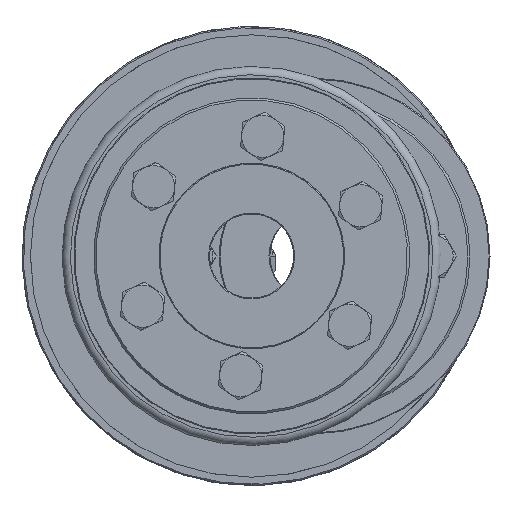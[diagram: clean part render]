
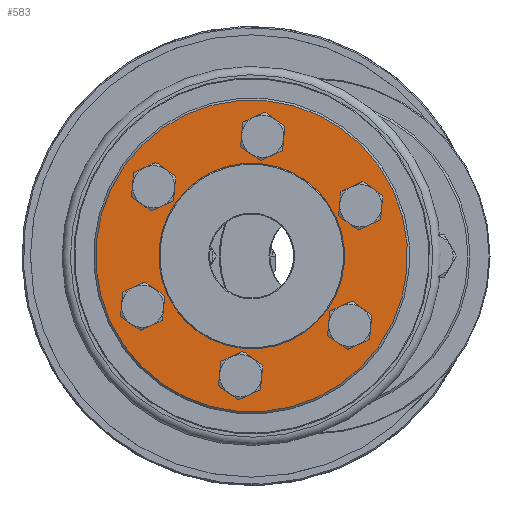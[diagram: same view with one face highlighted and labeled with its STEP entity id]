
A CAD part, left-side view. The second image highlights one B-rep face of the part: STEP entity #583.
In plain terms, the highlighted planar face has unit normal (-1, 0, 0).
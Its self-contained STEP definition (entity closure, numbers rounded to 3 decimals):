
#583 = ADVANCED_FACE( 'NONE', ( #1037, #1038, #1039, #1040, #1041, #1042, #1043, #1044 ), #1045, .F. );
#1037 = FACE_OUTER_BOUND( '', #1770, .T. );
#1038 = FACE_BOUND( '', #1771, .T. );
#1039 = FACE_BOUND( '', #1772, .T. );
#1040 = FACE_BOUND( '', #1773, .T. );
#1041 = FACE_BOUND( '', #1774, .T. );
#1042 = FACE_BOUND( '', #1775, .T. );
#1043 = FACE_BOUND( '', #1776, .T. );
#1044 = FACE_BOUND( '', #1777, .T. );
#1045 = PLANE( '', #1778 );
#1770 = EDGE_LOOP( '', ( #2645 ) );
#1771 = EDGE_LOOP( '', ( #2646 ) );
#1772 = EDGE_LOOP( '', ( #2647 ) );
#1773 = EDGE_LOOP( '', ( #2648 ) );
#1774 = EDGE_LOOP( '', ( #2649 ) );
#1775 = EDGE_LOOP( '', ( #2650 ) );
#1776 = EDGE_LOOP( '', ( #2651 ) );
#1777 = EDGE_LOOP( '', ( #2652 ) );
#1778 = AXIS2_PLACEMENT_3D( '', #2653, #2654, #2655 );
#2645 = ORIENTED_EDGE( '', *, *, #3880, .T. );
#2646 = ORIENTED_EDGE( '', *, *, #3881, .T. );
#2647 = ORIENTED_EDGE( '', *, *, #3882, .T. );
#2648 = ORIENTED_EDGE( '', *, *, #3883, .T. );
#2649 = ORIENTED_EDGE( '', *, *, #3884, .T. );
#2650 = ORIENTED_EDGE( '', *, *, #3885, .T. );
#2651 = ORIENTED_EDGE( '', *, *, #3886, .T. );
#2652 = ORIENTED_EDGE( '', *, *, #3887, .F. );
#2653 = CARTESIAN_POINT( '', ( 0., 22., 0. ) );
#2654 = DIRECTION( '', ( 1., 0., 0. ) );
#2655 = DIRECTION( '', ( 0., 1., 0. ) );
#3880 = EDGE_CURVE( 'NONE', #4279, #4279, #4280, .T. );
#3881 = EDGE_CURVE( 'NONE', #4281, #4281, #4282, .T. );
#3882 = EDGE_CURVE( 'NONE', #4283, #4283, #4284, .T. );
#3883 = EDGE_CURVE( 'NONE', #4285, #4285, #4286, .T. );
#3884 = EDGE_CURVE( 'NONE', #4287, #4287, #4288, .T. );
#3885 = EDGE_CURVE( 'NONE', #4289, #4289, #4290, .T. );
#3886 = EDGE_CURVE( 'NONE', #4291, #4291, #4292, .T. );
#3887 = EDGE_CURVE( 'NONE', #4293, #4293, #4294, .T. );
#4279 = VERTEX_POINT( '', #4891 );
#4280 = CIRCLE( '', #4892, 37. );
#4281 = VERTEX_POINT( '', #4893 );
#4282 = CIRCLE( '', #4894, 3.3 );
#4283 = VERTEX_POINT( '', #4895 );
#4284 = CIRCLE( '', #4896, 3.3 );
#4285 = VERTEX_POINT( '', #4897 );
#4286 = CIRCLE( '', #4898, 3.3 );
#4287 = VERTEX_POINT( '', #4899 );
#4288 = CIRCLE( '', #4900, 3.3 );
#4289 = VERTEX_POINT( '', #4901 );
#4290 = CIRCLE( '', #4902, 3.3 );
#4291 = VERTEX_POINT( '', #4903 );
#4292 = CIRCLE( '', #4904, 3.3 );
#4293 = VERTEX_POINT( '', #4905 );
#4294 = CIRCLE( '', #4906, 22. );
#4891 = CARTESIAN_POINT( '', ( 0., 0., -37. ) );
#4892 = AXIS2_PLACEMENT_3D( '', #5872, #5873, #5874 );
#4893 = CARTESIAN_POINT( '', ( 0., 14.25, 21.382 ) );
#4894 = AXIS2_PLACEMENT_3D( '', #5875, #5876, #5877 );
#4895 = CARTESIAN_POINT( '', ( 0., -14.25, 21.382 ) );
#4896 = AXIS2_PLACEMENT_3D( '', #5878, #5879, #5880 );
#4897 = CARTESIAN_POINT( '', ( 0., -28.5, -3.3 ) );
#4898 = AXIS2_PLACEMENT_3D( '', #5881, #5882, #5883 );
#4899 = CARTESIAN_POINT( '', ( 0., -14.25, -27.982 ) );
#4900 = AXIS2_PLACEMENT_3D( '', #5884, #5885, #5886 );
#4901 = CARTESIAN_POINT( '', ( 0., 14.25, -27.982 ) );
#4902 = AXIS2_PLACEMENT_3D( '', #5887, #5888, #5889 );
#4903 = CARTESIAN_POINT( '', ( 0., 28.5, -3.3 ) );
#4904 = AXIS2_PLACEMENT_3D( '', #5890, #5891, #5892 );
#4905 = CARTESIAN_POINT( '', ( 0., 0., 22. ) );
#4906 = AXIS2_PLACEMENT_3D( '', #5893, #5894, #5895 );
#5872 = CARTESIAN_POINT( '', ( 0., 0., 0. ) );
#5873 = DIRECTION( '', ( -1., 0., 0. ) );
#5874 = DIRECTION( '', ( 0., 0., -1. ) );
#5875 = CARTESIAN_POINT( '', ( 0., 14.25, 24.682 ) );
#5876 = DIRECTION( '', ( 1., 0., 0. ) );
#5877 = DIRECTION( '', ( 0., 0., -1. ) );
#5878 = CARTESIAN_POINT( '', ( 0., -14.25, 24.682 ) );
#5879 = DIRECTION( '', ( 1., 0., 0. ) );
#5880 = DIRECTION( '', ( 0., 0., -1. ) );
#5881 = CARTESIAN_POINT( '', ( 0., -28.5, 0. ) );
#5882 = DIRECTION( '', ( 1., 0., 0. ) );
#5883 = DIRECTION( '', ( 0., 0., -1. ) );
#5884 = CARTESIAN_POINT( '', ( 0., -14.25, -24.682 ) );
#5885 = DIRECTION( '', ( 1., 0., 0. ) );
#5886 = DIRECTION( '', ( 0., 0., -1. ) );
#5887 = CARTESIAN_POINT( '', ( 0., 14.25, -24.682 ) );
#5888 = DIRECTION( '', ( 1., 0., 0. ) );
#5889 = DIRECTION( '', ( 0., 0., -1. ) );
#5890 = CARTESIAN_POINT( '', ( 0., 28.5, 0. ) );
#5891 = DIRECTION( '', ( 1., 0., 0. ) );
#5892 = DIRECTION( '', ( 0., 0., -1. ) );
#5893 = CARTESIAN_POINT( '', ( 0., 0., 0. ) );
#5894 = DIRECTION( '', ( -1., 0., 0. ) );
#5895 = DIRECTION( '', ( 0., 0., 1. ) );
